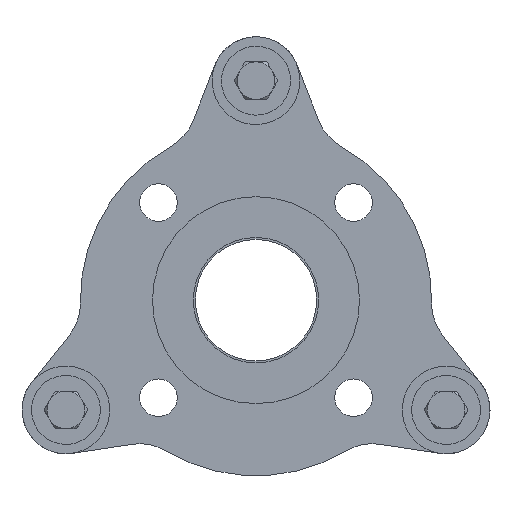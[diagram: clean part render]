
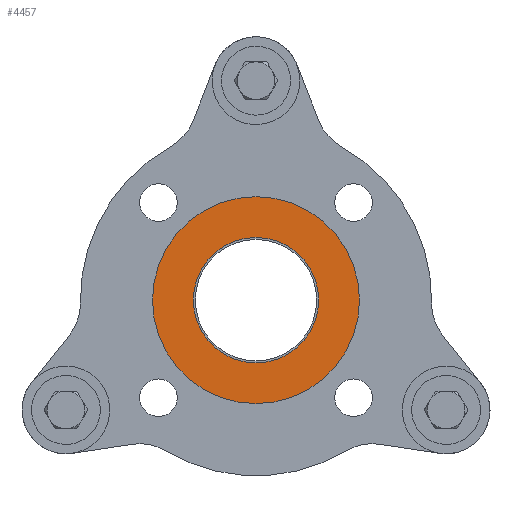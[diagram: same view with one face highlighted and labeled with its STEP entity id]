
A CAD part, front view. The second image highlights one B-rep face of the part: STEP entity #4457.
In plain terms, the highlighted planar face has unit normal (0, -1, 0).
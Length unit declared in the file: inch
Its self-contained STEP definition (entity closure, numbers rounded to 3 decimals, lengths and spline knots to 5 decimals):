
#484=PLANE('',#4861);
#648=FACE_BOUND('',#1231,.T.);
#873=FACE_OUTER_BOUND('',#1230,.T.);
#1230=EDGE_LOOP('',(#3094));
#1231=EDGE_LOOP('',(#3095));
#1759=CIRCLE('',#4857,1.25);
#1760=CIRCLE('',#4859,2.0625);
#2075=VERTEX_POINT('',#6954);
#2076=VERTEX_POINT('',#6957);
#2493=EDGE_CURVE('',#2075,#2075,#1759,.T.);
#2494=EDGE_CURVE('',#2076,#2076,#1760,.T.);
#3094=ORIENTED_EDGE('',*,*,#2494,.T.);
#3095=ORIENTED_EDGE('',*,*,#2493,.T.);
#4457=ADVANCED_FACE('',(#873,#648),#484,.T.);
#4857=AXIS2_PLACEMENT_3D('',#6955,#5604,#5605);
#4859=AXIS2_PLACEMENT_3D('',#6958,#5608,#5609);
#4861=AXIS2_PLACEMENT_3D('',#6961,#5612,#5613);
#5604=DIRECTION('center_axis',(0.,1.,0.));
#5605=DIRECTION('ref_axis',(-1.,0.,0.));
#5608=DIRECTION('center_axis',(0.,-1.,0.));
#5609=DIRECTION('ref_axis',(1.,0.,0.));
#5612=DIRECTION('center_axis',(0.,-1.,0.));
#5613=DIRECTION('ref_axis',(0.,0.,
1.));
#6954=CARTESIAN_POINT('',(-1.25,0.,0.));
#6955=CARTESIAN_POINT('Origin',(0.,0.,
0.));
#6957=CARTESIAN_POINT('',(-2.0625,0.,0.));
#6958=CARTESIAN_POINT('Origin',(0.,0.,
0.));
#6961=CARTESIAN_POINT('Origin',(0.,0.,
0.));
